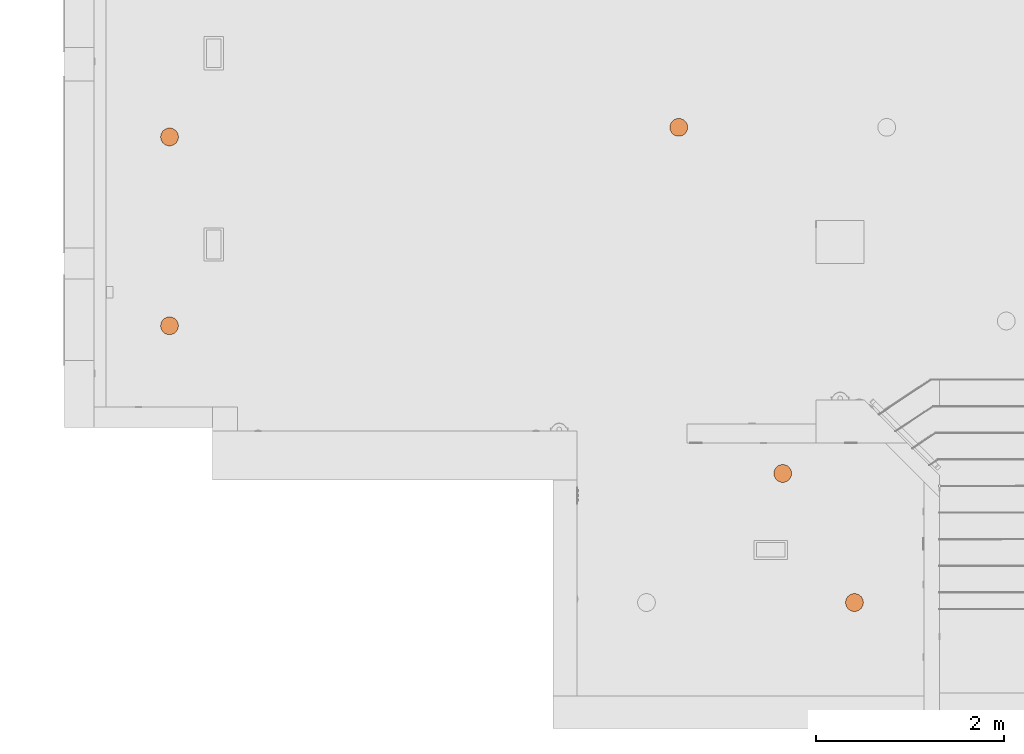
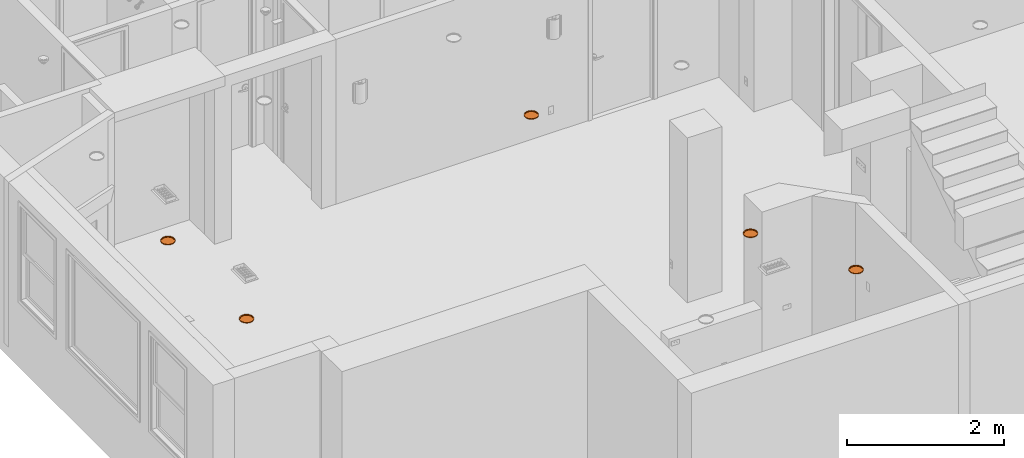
# One storey, part 26 of 48: 5 proxies.
"""IFC2X3 building model written with IfcOpenShell, lengths in inches."""

import ifcopenshell
import ifcopenshell.guid

model = None  # the IFC model being written
_history = None  # IfcOwnerHistory: only IFC2X3 demands one
_inside = {}  # id of a spatial element -> (the spatial element, [elements in it])
_under = {}  # id of a project, library or spatial element -> (it, [spatial elements below it])
_declared = {}  # id of a project -> (the project, [libraries it declares])
_typed = {}  # id of a type object -> (the type object, [elements of that type])
_made_of = {}  # id of a material, layer set ... -> (it, [elements and type objects made of it])


def new_model(schema):
    """Start an empty IFC model of exactly this schema.

    Asked for "IFC4X3", IfcOpenShell would pick the latest addendum, in which some entities
    have other attributes; the version numbers below select the first issue.
    IFC2X3 requires an IfcOwnerHistory on every rooted entity: one is made here for all.
    """
    global model, _history
    if schema == "IFC4X3":
        model = ifcopenshell.file(schema_version=(4, 3, 0, 0))
    else:
        model = ifcopenshell.file(schema=schema)
    _inside.clear()
    _under.clear()
    _declared.clear()
    _typed.clear()
    _made_of.clear()
    _history = None
    if model.schema == "IFC2X3":
        org = make("IfcOrganization", Name="unknown")
        user = make(
            "IfcPersonAndOrganization",
            ThePerson=make("IfcPerson", FamilyName="unknown"),
            TheOrganization=org,
        )
        app = make(
            "IfcApplication",
            ApplicationDeveloper=org,
            Version="unknown",
            ApplicationFullName="unknown",
            ApplicationIdentifier="unknown",
        )
        _history = make(
            "IfcOwnerHistory",
            OwningUser=user,
            OwningApplication=app,
            ChangeAction="ADDED",
            CreationDate=0,
        )
    return model


def make(cls, **values):
    """One entity of the class cls with the attributes given. An attribute that is None is left unset."""
    return model.create_entity(
        cls, **{name: value for name, value in values.items() if value is not None}
    )


def entity(cls, *values):
    """Any entity or typed value of the class cls, its attributes in the order of the schema. None: left unset."""
    e = model.create_entity(cls)
    for i, value in enumerate(values):
        if value is not None:
            e[i] = value
    return e


def rooted(cls, **values):
    """An entity with a GlobalId (a new one), such as an element, a storey or a relation."""
    return make(cls, GlobalId=ifcopenshell.guid.new(), OwnerHistory=_history, **values)


def si_unit(unit_type, name, prefix=None):
    """IfcSIUnit, for example si_unit("LENGTHUNIT", "METRE", prefix="MILLI")."""
    return make("IfcSIUnit", UnitType=unit_type, Prefix=prefix, Name=name)


def converted_unit(unit_type, name, factor, base, dimensions=None, offset=None):
    """IfcConversionBasedUnit, such as the inch: factor (a typed value) times the base unit."""
    return make(
        "IfcConversionBasedUnit"
        if offset is None
        else "IfcConversionBasedUnitWithOffset",
        ConversionOffset=offset,
        Dimensions=None
        if dimensions is None
        else entity("IfcDimensionalExponents", *dimensions),
        UnitType=unit_type,
        Name=name,
        ConversionFactor=make(
            "IfcMeasureWithUnit", ValueComponent=factor, UnitComponent=base
        ),
    )


def derived_unit(unit_type, elements):
    """IfcDerivedUnit: a product of units, each with its exponent."""
    return make(
        "IfcDerivedUnit",
        Elements=[
            make("IfcDerivedUnitElement", Unit=unit, Exponent=power)
            for unit, power in elements
        ],
        UnitType=unit_type,
    )


def money_unit(currency):
    """IfcMonetaryUnit."""
    return make("IfcMonetaryUnit", Currency=currency)


def assignment(units):
    """IfcUnitAssignment: the units of a project."""
    return None if units is None else make("IfcUnitAssignment", Units=units)


def point(xyz):
    """IfcCartesianPoint."""
    return None if xyz is None else make("IfcCartesianPoint", Coordinates=xyz)


def direction(xyz):
    """IfcDirection."""
    return None if xyz is None else make("IfcDirection", DirectionRatios=xyz)


def frame(location, z_axis=None, x_axis=None):
    """IfcAxis2Placement3D, a coordinate frame: its origin and axes. An axis left out is left unset."""
    return make(
        "IfcAxis2Placement3D",
        Location=point(location),
        Axis=direction(z_axis),
        RefDirection=direction(x_axis),
    )


def origin_with_axes():
    """The frame at (0, 0, 0) with the z axis (0, 0, 1) and the x axis (1, 0, 0) written out."""
    return frame((0.0, 0.0, 0.0), z_axis=(0.0, 0.0, 1.0), x_axis=(1.0, 0.0, 0.0))


def place(relative_to, where):
    """IfcLocalPlacement: puts the frame where relative to a parent placement (None: the world)."""
    return make(
        "IfcLocalPlacement", PlacementRelTo=relative_to, RelativePlacement=where
    )


def context(
    kind, dimensions, precision=None, world=None, true_north=None, identifier=None
):
    """IfcGeometricRepresentationContext, for example the 3D "Model" context."""
    return make(
        "IfcGeometricRepresentationContext",
        ContextIdentifier=identifier,
        ContextType=kind,
        CoordinateSpaceDimension=dimensions,
        Precision=precision,
        WorldCoordinateSystem=world,
        TrueNorth=true_north,
    )


def subcontext(parent, identifier, kind, view, scale=None):
    """IfcGeometricRepresentationSubContext, for example "Body" below "Model"."""
    return make(
        "IfcGeometricRepresentationSubContext",
        ContextIdentifier=identifier,
        ContextType=kind,
        ParentContext=parent,
        TargetScale=scale,
        TargetView=view,
    )


def project(units=None, contexts=None):
    """IfcProject with its units and contexts."""
    return rooted(
        "IfcProject",
        Name="project",
        RepresentationContexts=contexts,
        UnitsInContext=assignment(units),
    )


def spatial(cls, under=None, at=None, **own):
    """A site, building, storey or space (cls), placed at a placement, below another one or the project."""
    s = rooted(cls, ObjectPlacement=at, **own)
    if under is not None:
        _under.setdefault(under.id(), (under, []))[1].append(s)
    return s


def faces_of(points, faces, orient=None, outer=None):
    """IfcFace entities. A face is a list of loops; a loop is a list of indices into points, from 0.

    orient and outer hold one flag for each loop. By default every Orientation is true, the
    first loop of a face is its IfcFaceOuterBound and the others are IfcFaceBound.
    """
    made = []
    for i, loops in enumerate(faces):
        bounds = []
        for j, loop in enumerate(loops):
            is_outer = j == 0 if outer is None else outer[i][j]
            bounds.append(
                make(
                    "IfcFaceOuterBound" if is_outer else "IfcFaceBound",
                    Bound=make("IfcPolyLoop", Polygon=[points[k] for k in loop]),
                    Orientation=True if orient is None else orient[i][j],
                )
            )
        made.append(make("IfcFace", Bounds=bounds))
    return made


def open_shell(faces, orient=None, outer=None):
    """The faces of one IfcOpenShell. surface_model builds it on its shared points."""
    return ("IfcOpenShell", faces, orient, outer)


def faceted_brep(points, faces, orient=None, outer=None, voids=None):
    """IfcFacetedBrep: a solid bounded by flat faces; with voids (closed shells), ...WithVoids."""
    shared = [point(p) for p in points]
    hull = make("IfcClosedShell", CfsFaces=faces_of(shared, faces, orient, outer))
    if voids is None:
        return make("IfcFacetedBrep", Outer=hull)
    return make(
        "IfcFacetedBrepWithVoids",
        Outer=hull,
        Voids=[
            make(cls, CfsFaces=faces_of(shared, fs, o, b)) for cls, fs, o, b in voids
        ],
    )


def surface_model(cls, points, shells):
    """IfcFaceBasedSurfaceModel or IfcShellBasedSurfaceModel (cls): surfaces that need not close."""
    shared = [point(p) for p in points]
    made = [make(c, CfsFaces=faces_of(shared, fs, o, b)) for c, fs, o, b in shells]
    if cls == "IfcFaceBasedSurfaceModel":
        return make(cls, FbsmFaces=made)
    return make(cls, SbsmBoundary=made)


def shape(context_of_items, identifier, shape_type, items):
    """IfcShapeRepresentation: the items that make up one representation, for example the "Body"."""
    return make(
        "IfcShapeRepresentation",
        ContextOfItems=context_of_items,
        RepresentationIdentifier=identifier,
        RepresentationType=shape_type,
        Items=items,
    )


def source(mapping_origin, context_of_items, identifier, shape_type, items):
    """IfcRepresentationMap: a shape defined once, which mapped items show again and again."""
    return make(
        "IfcRepresentationMap",
        MappingOrigin=mapping_origin,
        MappedRepresentation=shape(context_of_items, identifier, shape_type, items),
    )


def transform(
    local_origin,
    x_axis=None,
    y_axis=None,
    z_axis=None,
    scale=None,
    scale2=None,
    scale3=None,
    uniform=True,
):
    """IfcCartesianTransformationOperator3D, or its non-uniform kind. x_axis, y_axis, z_axis: its Axis1, 2, 3."""
    if uniform:
        return make(
            "IfcCartesianTransformationOperator3D",
            Axis1=direction(x_axis),
            Axis2=direction(y_axis),
            LocalOrigin=point(local_origin),
            Scale=scale,
            Axis3=direction(z_axis),
        )
    return make(
        "IfcCartesianTransformationOperator3DnonUniform",
        Axis1=direction(x_axis),
        Axis2=direction(y_axis),
        LocalOrigin=point(local_origin),
        Scale=scale,
        Axis3=direction(z_axis),
        Scale2=scale2,
        Scale3=scale3,
    )


def mapped(mapping_source, mapping_target):
    """IfcMappedItem: shows the shape of a source again, moved by a transform."""
    return make(
        "IfcMappedItem", MappingSource=mapping_source, MappingTarget=mapping_target
    )


def made_of(thing, what):
    """Note that an element or type object is made of a material, layer set ...; save() writes the relation."""
    if what is not None:
        _made_of.setdefault(what.id(), (what, []))[1].append(thing)
    return thing


def type_object(cls, material=None, **own):
    """A type object (cls), such as IfcWallType, which elements share."""
    return made_of(rooted(cls, **own), material)


def element(
    cls,
    number,
    at=None,
    inside=None,
    cuts=None,
    type_object=None,
    material=None,
    context=None,
    identifier="Body",
    shape_type=None,
    held_by="IfcProductDefinitionShape",
    body=None,
    shapes=None,
    **own,
):
    """One element of the class cls, such as IfcWall. Its Tag is "e" and its number.

    at: its placement. inside: the storey or other place that contains it. cuts: it is an
    opening in that element (IfcRelVoidsElement). A single representation is given by context,
    identifier, shape_type and body (its items); several are given by shapes. held_by: the class
    of the entity that holds the representations. save() writes the other relations.
    """
    e = rooted(cls, Tag="e%d" % number, ObjectPlacement=at, **own)
    if body is not None:
        shapes = [shape(context, identifier, shape_type, body)]
    if shapes is not None:
        e.Representation = make(held_by, Representations=shapes)
    if inside is not None:
        _inside.setdefault(inside.id(), (inside, []))[1].append(e)
    if cuts is not None:
        rooted(
            "IfcRelVoidsElement", RelatingBuildingElement=cuts, RelatedOpeningElement=e
        )
    if type_object is not None:
        _typed.setdefault(type_object.id(), (type_object, []))[1].append(e)
    return made_of(e, material)


def aggregate(whole, parts):
    """IfcRelAggregates: a whole, such as a stair, and the parts it consists of."""
    return rooted("IfcRelAggregates", RelatingObject=whole, RelatedObjects=parts)


def save(model, path):
    """Write the relations noted so far, then the file.

    IfcRelAggregates (storeys below a building ...), IfcRelContainedInSpatialStructure (elements
    in a storey), IfcRelDefinesByType, IfcRelAssociatesMaterial and IfcRelDeclares: one each for
    every whole, place, type object, material and project.
    """
    for whole, parts in _under.values():
        aggregate(whole, parts)
    for where, things in _inside.values():
        rooted(
            "IfcRelContainedInSpatialStructure",
            RelatedElements=things,
            RelatingStructure=where,
        )
    for kind, things in _typed.values():
        rooted("IfcRelDefinesByType", RelatedObjects=things, RelatingType=kind)
    for what, things in _made_of.values():
        rooted("IfcRelAssociatesMaterial", RelatedObjects=things, RelatingMaterial=what)
    for by, libraries in _declared.values():
        rooted("IfcRelDeclares", RelatingContext=by, RelatedDefinitions=libraries)
    model.write(path)


model = new_model("IFC2X3")

# Units and contexts
model_context = context("Model", 3, precision=0.00039370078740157, world=origin_with_axes(), true_north=direction((0.0, 1.0)))
plan_context = context("Plan", 3, precision=0.00039370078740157, world=origin_with_axes(), true_north=direction((0.0, 1.0)))
body_context = subcontext(model_context, "Body", "Model", "MODEL_VIEW")
ifc_project = project(units=[converted_unit("LENGTHUNIT", "INCH", entity("IfcPositiveLengthMeasure", 0.0254), si_unit("LENGTHUNIT", "METRE"), dimensions=[1, 0, 0, 0, 0, 0, 0]), converted_unit("AREAUNIT", "SQUARE_FOOT", entity("IfcPositiveLengthMeasure", 0.09290304), si_unit("AREAUNIT", "SQUARE_METRE"), dimensions=[2, 0, 0, 0, 0, 0, 0]), si_unit("PLANEANGLEUNIT", "RADIAN"), si_unit("SOLIDANGLEUNIT", "STERADIAN"), money_unit("USD"), converted_unit("TIMEUNIT", "Year", entity("IfcTimeMeasure", 31557600.0), si_unit("TIMEUNIT", "SECOND"), dimensions=[0, 0, 1, 0, 0, 0, 0]), si_unit("MASSUNIT", "GRAM", prefix="KILO"), si_unit("THERMODYNAMICTEMPERATUREUNIT", "DEGREE_CELSIUS"), si_unit("LUMINOUSINTENSITYUNIT", "LUMEN"), si_unit("ENERGYUNIT", "JOULE", prefix="MEGA"), derived_unit("SPECIFICHEATCAPACITYUNIT", [(si_unit("ENERGYUNIT", "JOULE"), 1), (si_unit("MASSUNIT", "GRAM", prefix="KILO"), -1), (si_unit("THERMODYNAMICTEMPERATUREUNIT", "KELVIN"), -1)])], contexts=[model_context, plan_context])

# Site, building, storey
site_placement = place(None, origin_with_axes())
site = spatial("IfcSite", under=ifc_project, at=site_placement, Name="Site", CompositionType="ELEMENT")
building_placement = place(site_placement, origin_with_axes())
building = spatial("IfcBuilding", under=site, at=building_placement, Name="Building", CompositionType="ELEMENT")
storey_placement = place(building_placement, origin_with_axes())
storey = spatial("IfcBuildingStorey", under=building, at=storey_placement, Name="First Floor", CompositionType="ELEMENT", Elevation=0.0)

# Proxies
building_element_proxy_type = type_object("IfcBuildingElementProxyType", Name="Recessed Spot", PredefinedType="NOTDEFINED")
shared_shape = source(origin_with_axes(), body_context, "Body", "SurfaceModel", [
    faceted_brep([(3.749999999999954, 0.0, -0.4999999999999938), (3.523847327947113, 1.282575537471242, -0.4999999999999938), (3.523847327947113, 1.282575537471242, 0.0), (3.749999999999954, 0.0, 0.0), (3.523847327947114, -1.282575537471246, -0.4999999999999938), (2.872666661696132, -2.410453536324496, -0.4999999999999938), (1.874999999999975, -3.247595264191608, -0.4999999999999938), (0.6511806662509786, -3.693029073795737, -0.4999999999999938), (-0.6511806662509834, -3.693029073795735, -0.4999999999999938), (-1.87499999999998, -3.247595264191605, -0.4999999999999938), (-2.872666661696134, -2.410453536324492, -0.4999999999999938), (-3.523847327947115, -1.282575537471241, -0.4999999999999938), (-3.749999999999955, 0.0, -0.4999999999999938), (-3.523847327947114, 1.282575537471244, -0.4999999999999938), (-2.872666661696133, 2.410453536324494, -0.4999999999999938), (-1.874999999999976, 3.247595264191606, -0.4999999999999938), (-0.6511806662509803, 3.693029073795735, -0.4999999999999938), (0.6511806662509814, 3.693029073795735, -0.4999999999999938), (1.874999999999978, 3.247595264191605, -0.4999999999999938), (2.872666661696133, 2.410453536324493, -0.4999999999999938), (3.24999999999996, 0.0, -0.4999999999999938), (3.054001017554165, 1.11156546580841, -0.4999999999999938), (2.489644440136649, 2.089059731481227, -0.4999999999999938), (1.62499999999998, 2.814582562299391, -0.4999999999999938), (0.5643565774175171, 3.200625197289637, -0.4999999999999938), (-0.5643565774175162, 3.200625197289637, -0.4999999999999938), (-1.62499999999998, 2.814582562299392, -0.4999999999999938), (-2.489644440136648, 2.089059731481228, -0.4999999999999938), (-3.054001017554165, 1.111565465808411, -0.4999999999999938), (-3.24999999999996, 0.0, -0.4999999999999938), (-3.054001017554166, -1.111565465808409, -0.4999999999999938), (-2.48964444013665, -2.089059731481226, -0.4999999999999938), (-1.624999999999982, -2.814582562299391, -0.4999999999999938), (-0.5643565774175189, -3.200625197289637, -0.4999999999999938), (0.5643565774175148, -3.200625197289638, -0.4999999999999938), (1.624999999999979, -2.814582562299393, -0.4999999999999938), (2.489644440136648, -2.08905973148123, -0.4999999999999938), (3.054001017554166, -1.111565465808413, -0.4999999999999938), (2.872666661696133, 2.410453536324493, 0.0), (1.874999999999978, 3.247595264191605, 0.0), (0.6511806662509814, 3.693029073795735, 0.0), (-0.6511806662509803, 3.693029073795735, 0.0), (-1.874999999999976, 3.247595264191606, 0.0), (-2.872666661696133, 2.410453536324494, 0.0), (-3.523847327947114, 1.282575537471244, 0.0), (-3.749999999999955, 0.0, 0.0), (-3.523847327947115, -1.282575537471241, 0.0), (-2.872666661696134, -2.410453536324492, 0.0), (-1.87499999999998, -3.247595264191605, 0.0), (-0.6511806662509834, -3.693029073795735, 0.0), (0.6511806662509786, -3.693029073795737, 0.0), (1.874999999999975, -3.247595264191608, 0.0), (2.872666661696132, -2.410453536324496, 0.0), (3.523847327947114, -1.282575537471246, 0.0), (3.24999999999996, 0.0, 0.0), (3.054001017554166, -1.111565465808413, 0.0), (2.489644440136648, -2.08905973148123, 0.0), (1.624999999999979, -2.814582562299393, 0.0), (0.5643565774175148, -3.200625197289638, 0.0), (-0.5643565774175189, -3.200625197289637, 0.0), (-1.624999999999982, -2.814582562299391, 0.0), (-2.48964444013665, -2.089059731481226, 0.0), (-3.054001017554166, -1.111565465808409, 0.0), (-3.24999999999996, 0.0, 0.0), (-3.054001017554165, 1.111565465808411, 0.0), (-2.489644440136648, 2.089059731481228, 0.0), (-1.62499999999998, 2.814582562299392, 0.0), (-0.5643565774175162, 3.200625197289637, 0.0), (0.5643565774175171, 3.200625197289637, 0.0), (1.62499999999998, 2.814582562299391, 0.0), (2.489644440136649, 2.089059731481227, 0.0), (3.054001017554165, 1.11156546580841, 0.0)], [[[0, 1, 2, 3]], [[0, 4, 5, 6, 7, 8, 9, 10, 11, 12, 13, 14, 15, 16, 17, 18, 19, 1], [20, 21, 22, 23, 24, 25, 26, 27, 28, 29, 30, 31, 32, 33, 34, 35, 36, 37]], [[1, 19, 38, 2]], [[3, 2, 38, 39, 40, 41, 42, 43, 44, 45, 46, 47, 48, 49, 50, 51, 52, 53], [54, 55, 56, 57, 58, 59, 60, 61, 62, 63, 64, 65, 66, 67, 68, 69, 70, 71]], [[4, 0, 3, 53]], [[5, 4, 53, 52]], [[6, 5, 52, 51]], [[7, 6, 51, 50]], [[8, 7, 50, 49]], [[9, 8, 49, 48]], [[10, 9, 48, 47]], [[11, 10, 47, 46]], [[12, 11, 46, 45]], [[13, 12, 45, 44]], [[14, 13, 44, 43]], [[15, 14, 43, 42]], [[16, 15, 42, 41]], [[17, 16, 41, 40]], [[18, 17, 40, 39]], [[19, 18, 39, 38]], [[21, 20, 54, 71]], [[22, 21, 71, 70]], [[23, 22, 70, 69]], [[24, 23, 69, 68]], [[25, 24, 68, 67]], [[26, 25, 67, 66]], [[27, 26, 66, 65]], [[28, 27, 65, 64]], [[29, 28, 64, 63]], [[30, 29, 63, 62]], [[31, 30, 62, 61]], [[32, 31, 61, 60]], [[33, 32, 60, 59]], [[34, 33, 59, 58]], [[35, 34, 58, 57]], [[36, 35, 57, 56]], [[37, 36, 56, 55]], [[20, 37, 55, 54]]]),
    surface_model("IfcShellBasedSurfaceModel", [(3.24999999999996, 0.0, -0.4460629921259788), (3.054001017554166, -1.111565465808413, -0.4460629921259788), (2.489644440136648, -2.08905973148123, -0.4460629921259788), (1.624999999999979, -2.814582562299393, -0.4460629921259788), (0.5643565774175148, -3.200625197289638, -0.4460629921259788), (-0.5643565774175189, -3.200625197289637, -0.4460629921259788), (-1.624999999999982, -2.814582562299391, -0.4460629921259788), (-2.48964444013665, -2.089059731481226, -0.4460629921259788), (-3.054001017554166, -1.111565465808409, -0.4460629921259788), (-3.24999999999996, 0.0, -0.4460629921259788), (-3.054001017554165, 1.111565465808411, -0.4460629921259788), (-2.489644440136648, 2.089059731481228, -0.4460629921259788), (-1.62499999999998, 2.814582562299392, -0.4460629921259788), (-0.5643565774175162, 3.200625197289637, -0.4460629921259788), (0.5643565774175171, 3.200625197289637, -0.4460629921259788), (1.62499999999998, 2.814582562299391, -0.4460629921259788), (2.489644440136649, 2.089059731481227, -0.4460629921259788), (3.054001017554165, 1.11156546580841, -0.4460629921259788)], [open_shell([[[0, 1, 2, 3, 4, 5, 6, 7, 8, 9, 10, 11, 12, 13, 14, 15, 16, 17]]])]),
])
for number, where, z_axis, x_axis, name in (
    (1, (52.5000000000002, 251.5000000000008, 100.9999999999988), (0.0, 0.0, 1.0), (1.0, 0.0, 0.0), "L-03"),
    (2, (126.000000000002, 52.74999999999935, 100.9999999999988), (0.0, 0.0, 1.0), (1.0, 0.0, 0.0), "L-03"),
    (3, (-160.5025126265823, 247.4999999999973, 100.9999999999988), (0.0, 0.0, 1.0), (1.0, 0.0, 0.0), "L-03"),
    (4, (-160.5025126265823, 168.4999999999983, 100.9999999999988), (0.0, 0.0, 1.0), (1.0, 0.0, 0.0), "L-03"),
    (5, (95.99999999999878, 106.7499999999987, 100.9999999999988), (0.0, 0.0, 1.0), (1.0, 0.0, 0.0), "L-03"),
):
    element("IfcBuildingElementProxy", number, at=place(storey_placement, frame(where, z_axis=z_axis, x_axis=x_axis)), inside=storey, type_object=building_element_proxy_type, Name=name, context=body_context, shape_type="MappedRepresentation", body=[
        mapped(shared_shape, transform((0.0, 0.0, 0.0))),
    ])

save(model, "model.ifc")
